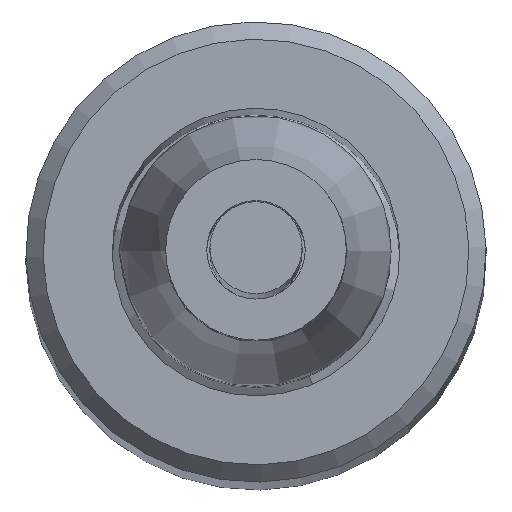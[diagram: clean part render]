
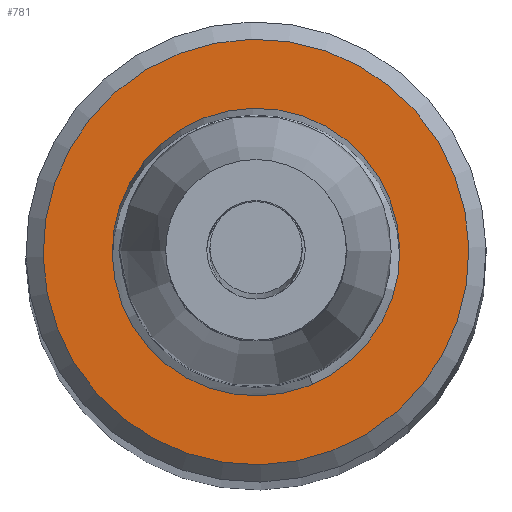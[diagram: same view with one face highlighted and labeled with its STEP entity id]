
A CAD part, top view. The second image highlights one B-rep face of the part: STEP entity #781.
In plain terms, the highlighted planar face has unit normal (0, 0, 1) as drawn and (0, -1, 0) by its records, which use the part's own axes.
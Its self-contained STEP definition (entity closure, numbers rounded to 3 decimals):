
#730=CARTESIAN_POINT('',(13.526,0.98,0.));
#731=VERTEX_POINT('',#730);
#732=CARTESIAN_POINT('',(9.826,0.98,0.0));
#733=DIRECTION('',(0.0,1.0,0.0));
#734=DIRECTION('',(-1.0,0.0,0.0));
#735=AXIS2_PLACEMENT_3D('',#732,#733,#734);
#736=CIRCLE('',#735,3.7);
#737=EDGE_CURVE('',#731,#731,#736,.T.);
#762=CARTESIAN_POINT('',(13.076,0.98,0.0));
#763=DIRECTION('',(0.0,-1.0,0.0));
#764=DIRECTION('',(0.0,0.0,-1.0));
#765=AXIS2_PLACEMENT_3D('',#762,#763,#764);
#766=PLANE('',#765);
#767=ORIENTED_EDGE('',*,*,#737,.F.);
#768=EDGE_LOOP('',(#767));
#769=FACE_OUTER_BOUND('',#768,.T.);
#770=CARTESIAN_POINT('',(12.326,0.98,0.0));
#771=VERTEX_POINT('',#770);
#772=CARTESIAN_POINT('',(9.826,0.98,0.0));
#773=DIRECTION('',(0.0,-1.0,0.0));
#774=DIRECTION('',(1.0,0.0,0.0));
#775=AXIS2_PLACEMENT_3D('',#772,#773,#774);
#776=CIRCLE('',#775,2.5);
#777=EDGE_CURVE('',#771,#771,#776,.T.);
#778=ORIENTED_EDGE('',*,*,#777,.F.);
#779=EDGE_LOOP('',(#778));
#780=FACE_BOUND('',#779,.T.);
#781=ADVANCED_FACE('',(#769,#780),#766,.T.);
